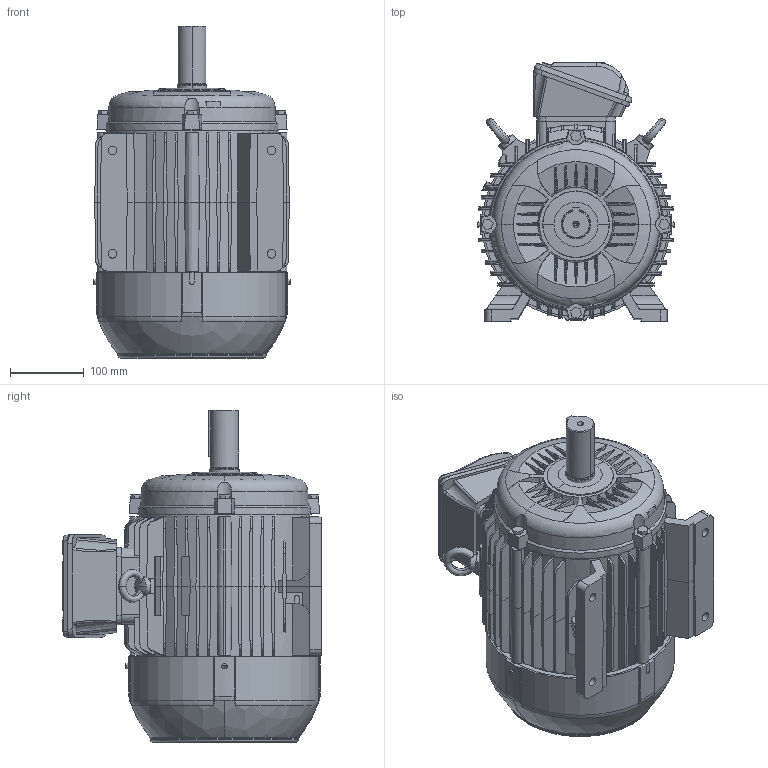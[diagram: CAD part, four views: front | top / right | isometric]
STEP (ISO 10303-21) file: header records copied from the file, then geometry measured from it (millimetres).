
FILE_DESCRIPTION (( 'STEP AP203' ), '1' );
FILE_NAME ('132S_TOP.STEP', '2016-03-14T20:21:28', ( 'support' ), ( 'Microsoft' ), 'SwSTEP 2.0', 'SolidWorks 2015', '' );
FILE_SCHEMA (( 'CONFIG_CONTROL_DESIGN' ));
Length unit declared in the file: millimetre
Products named in the file (1): 132S_TOP
Bounding box: 267.8 x 352.15 x 450.7 mm (x, y, z)
Volume: 18542450.5 mm3; surface area: 968438.4 mm2
Topology: 16 solids, 16 shells, 2530 faces, 6391 edges, 4148 vertices
Faces by surface type: plane 1950, bspline 223, cone 183, cylinder 133, torus 35, sphere 6
Entity records: 85643 total; most frequent: CARTESIAN_POINT 27629, ORIENTED_EDGE 12762, DIRECTION 10442, EDGE_CURVE 6381, LINE 4438, VECTOR 4438, VERTEX_POINT 4148, AXIS2_PLACEMENT_3D 3002
